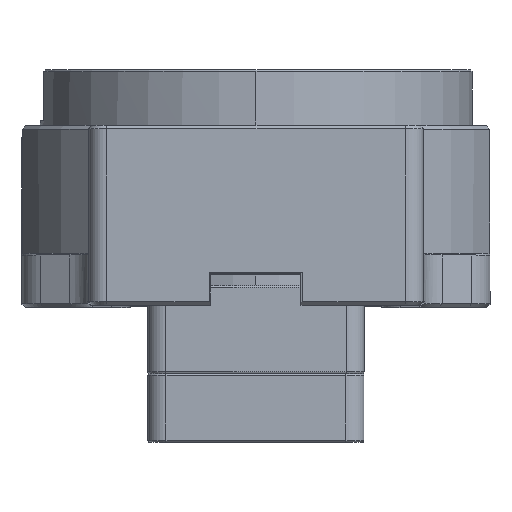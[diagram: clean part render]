
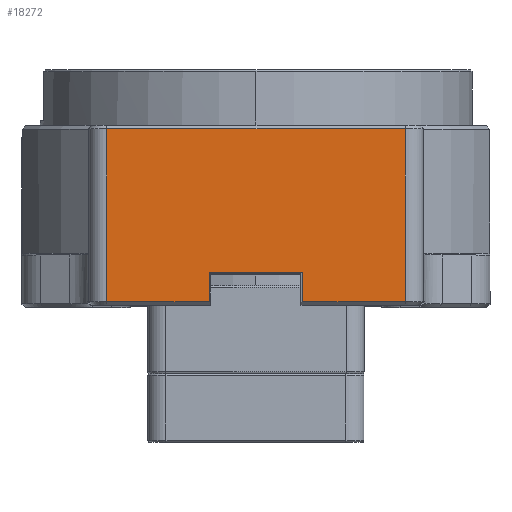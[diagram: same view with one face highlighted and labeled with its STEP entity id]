
A CAD part, top view. The second image highlights one B-rep face of the part: STEP entity #18272.
In plain terms, the highlighted planar face has unit normal (0, 0, 1).
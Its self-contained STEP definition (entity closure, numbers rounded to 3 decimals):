
#718 = AXIS2_PLACEMENT_3D ( 'NONE', #15358, #14811, #14809 ) ;
#820 = VERTEX_POINT ( 'NONE', #11093 ) ;
#1163 = LINE ( 'NONE', #17351, #7447 ) ;
#1240 = EDGE_LOOP ( 'NONE', ( #11314, #10220, #1412, #1367, #8079, #13317, #12594, #19834 ) ) ;
#1367 = ORIENTED_EDGE ( 'NONE', *, *, #16840, .T. ) ;
#1412 = ORIENTED_EDGE ( 'NONE', *, *, #19091, .T. ) ;
#1602 = VECTOR ( 'NONE', #9500, 1000. ) ;
#1623 = LINE ( 'NONE', #9744, #1602 ) ;
#2100 = VERTEX_POINT ( 'NONE', #9341 ) ;
#2582 = LINE ( 'NONE', #6066, #2823 ) ;
#2823 = VECTOR ( 'NONE', #7005, 1000. ) ;
#3811 = VERTEX_POINT ( 'NONE', #16212 ) ;
#4333 = FACE_OUTER_BOUND ( 'NONE', #1240, .T. ) ;
#4519 = VECTOR ( 'NONE', #18964, 1000. ) ;
#4591 = LINE ( 'NONE', #18856, #4519 ) ;
#4898 = VECTOR ( 'NONE', #8422, 1000. ) ;
#5084 = VERTEX_POINT ( 'NONE', #15204 ) ;
#5447 = EDGE_CURVE ( 'NONE', #17204, #7075, #1623, .T. ) ;
#6066 = CARTESIAN_POINT ( 'NONE',  ( 41.5, 50.5, 97. ) ) ;
#7005 = DIRECTION ( 'NONE',  ( 0., -1., 0. ) ) ;
#7075 = VERTEX_POINT ( 'NONE', #9575 ) ;
#7447 = VECTOR ( 'NONE', #17265, 1000. ) ;
#8079 = ORIENTED_EDGE ( 'NONE', *, *, #13032, .T. ) ;
#8394 = VECTOR ( 'NONE', #19417, 1000. ) ;
#8422 = DIRECTION ( 'NONE',  ( 0., 1., 0. ) ) ;
#9081 = VERTEX_POINT ( 'NONE', #12981 ) ;
#9235 = CARTESIAN_POINT ( 'NONE',  ( -13., 50.5, 97. ) ) ;
#9341 = CARTESIAN_POINT ( 'NONE',  ( 13., 9.7, 97. ) ) ;
#9500 = DIRECTION ( 'NONE',  ( 1., 0., 0. ) ) ;
#9575 = CARTESIAN_POINT ( 'NONE',  ( -13., 1.5, 97. ) ) ;
#9744 = CARTESIAN_POINT ( 'NONE',  ( 41.5, 1.5, 97. ) ) ;
#9814 = EDGE_CURVE ( 'NONE', #7075, #17215, #18119, .T. ) ;
#9865 = CARTESIAN_POINT ( 'NONE',  ( -13., 9.7, 97. ) ) ;
#9982 = CARTESIAN_POINT ( 'NONE',  ( 13., 50.5, 97. ) ) ;
#10188 = CARTESIAN_POINT ( 'NONE',  ( -41.5, 1.5, 97. ) ) ;
#10220 = ORIENTED_EDGE ( 'NONE', *, *, #9814, .T. ) ;
#10338 = DIRECTION ( 'NONE',  ( 0., -1., 0. ) ) ;
#11093 = CARTESIAN_POINT ( 'NONE',  ( 13., 1.5, 97. ) ) ;
#11314 = ORIENTED_EDGE ( 'NONE', *, *, #5447, .T. ) ;
#11933 = LINE ( 'NONE', #12982, #11969 ) ;
#11969 = VECTOR ( 'NONE', #12963, 1000. ) ;
#12594 = ORIENTED_EDGE ( 'NONE', *, *, #14313, .T. ) ;
#12963 = DIRECTION ( 'NONE',  ( 1., 0., 0. ) ) ;
#12981 = CARTESIAN_POINT ( 'NONE',  ( 41.5, 49.5, 97. ) ) ;
#12982 = CARTESIAN_POINT ( 'NONE',  ( 41.5, 1.5, 97. ) ) ;
#13032 = EDGE_CURVE ( 'NONE', #820, #3811, #11933, .T. ) ;
#13317 = ORIENTED_EDGE ( 'NONE', *, *, #14625, .F. ) ;
#14313 = EDGE_CURVE ( 'NONE', #9081, #5084, #4591, .T. ) ;
#14625 = EDGE_CURVE ( 'NONE', #9081, #3811, #2582, .T. ) ;
#14809 = DIRECTION ( 'NONE',  ( -1., 0., 0. ) ) ;
#14811 = DIRECTION ( 'NONE',  ( 0., 0., -1. ) ) ;
#15134 = PLANE ( 'NONE',  #718 ) ;
#15204 = CARTESIAN_POINT ( 'NONE',  ( -41.5, 49.5, 97. ) ) ;
#15358 = CARTESIAN_POINT ( 'NONE',  ( -41.5, 50.5, 97. ) ) ;
#16212 = CARTESIAN_POINT ( 'NONE',  ( 41.5, 1.5, 97. ) ) ;
#16840 = EDGE_CURVE ( 'NONE', #2100, #820, #18021, .T. ) ;
#17039 = EDGE_CURVE ( 'NONE', #5084, #17204, #1163, .T. ) ;
#17204 = VERTEX_POINT ( 'NONE', #10188 ) ;
#17215 = VERTEX_POINT ( 'NONE', #9865 ) ;
#17265 = DIRECTION ( 'NONE',  ( 0., -1., 0. ) ) ;
#17351 = CARTESIAN_POINT ( 'NONE',  ( -41.5, 50.5, 97. ) ) ;
#17928 = LINE ( 'NONE', #19494, #8394 ) ;
#18021 = LINE ( 'NONE', #9982, #18709 ) ;
#18119 = LINE ( 'NONE', #9235, #4898 ) ;
#18272 = ADVANCED_FACE ( 'NONE', ( #4333 ), #15134, .F. ) ;
#18709 = VECTOR ( 'NONE', #10338, 1000. ) ;
#18856 = CARTESIAN_POINT ( 'NONE',  ( -41.5, 49.5, 97. ) ) ;
#18964 = DIRECTION ( 'NONE',  ( -1., 0., 0. ) ) ;
#19091 = EDGE_CURVE ( 'NONE', #17215, #2100, #17928, .T. ) ;
#19417 = DIRECTION ( 'NONE',  ( 1., 0., 0. ) ) ;
#19494 = CARTESIAN_POINT ( 'NONE',  ( 12.5, 9.7, 97. ) ) ;
#19834 = ORIENTED_EDGE ( 'NONE', *, *, #17039, .T. ) ;
